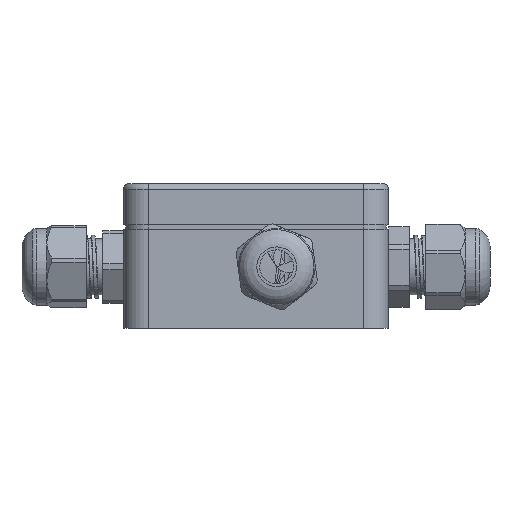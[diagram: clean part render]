
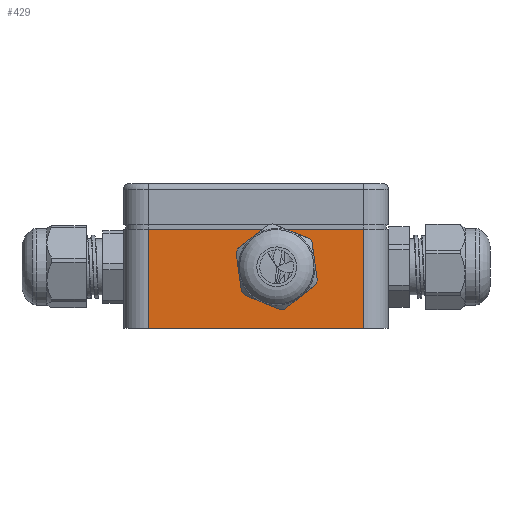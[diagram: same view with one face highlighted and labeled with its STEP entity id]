
A CAD part, left-side view. The second image highlights one B-rep face of the part: STEP entity #429.
In plain terms, the highlighted planar face has unit normal (-1, 0, 0) by its records, which use the part's own axes.
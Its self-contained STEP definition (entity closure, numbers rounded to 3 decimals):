
#429=ADVANCED_FACE('',(#26511),#26513,.T.);
#26511=FACE_BOUND('',#26512,.T.);
#26512=EDGE_LOOP('',(#93569,#93570,#93571,#93572,#93573,#93574,#93575,#93576,#93577,
#93578,#93579,#93580,#93581,#93582,#93583,#93584));
#26513=PLANE('',#26514);
#26514=AXIS2_PLACEMENT_3D('',#26515,#26516,#26517);
#26515=CARTESIAN_POINT('',(-58.874,0.353,-7.405));
#26516=DIRECTION('',(-1.,0.,0.));
#26517=DIRECTION('',(0.,-1.,0.));
#93569=ORIENTED_EDGE('',*,*,#133148,.T.);
#93570=ORIENTED_EDGE('',*,*,#133149,.T.);
#93571=ORIENTED_EDGE('',*,*,#132918,.T.);
#93572=ORIENTED_EDGE('',*,*,#133147,.F.);
#93573=ORIENTED_EDGE('',*,*,#133052,.T.);
#93574=ORIENTED_EDGE('',*,*,#133047,.T.);
#93575=ORIENTED_EDGE('',*,*,#132920,.T.);
#93576=ORIENTED_EDGE('',*,*,#133150,.T.);
#93577=ORIENTED_EDGE('',*,*,#133151,.T.);
#93578=ORIENTED_EDGE('',*,*,#133152,.T.);
#93579=ORIENTED_EDGE('',*,*,#133153,.T.);
#93580=ORIENTED_EDGE('',*,*,#133154,.T.);
#93581=ORIENTED_EDGE('',*,*,#133155,.T.);
#93582=ORIENTED_EDGE('',*,*,#133156,.T.);
#93583=ORIENTED_EDGE('',*,*,#133157,.T.);
#93584=ORIENTED_EDGE('',*,*,#133158,.T.);
#132918=EDGE_CURVE('',#141613,#141611,#141614,.T.);
#132920=EDGE_CURVE('',#141617,#141615,#141618,.T.);
#133047=EDGE_CURVE('',#141848,#141617,#141849,.T.);
#133052=EDGE_CURVE('',#141857,#141848,#141858,.T.);
#133147=EDGE_CURVE('',#141857,#141611,#142036,.T.);
#133148=EDGE_CURVE('',#142037,#142038,#142039,.F.);
#133149=EDGE_CURVE('',#142038,#141613,#142040,.F.);
#133150=EDGE_CURVE('',#141615,#142041,#142042,.F.);
#133151=EDGE_CURVE('',#142041,#142043,#142044,.F.);
#133152=EDGE_CURVE('',#142043,#142045,#142046,.F.);
#133153=EDGE_CURVE('',#142045,#142047,#142048,.F.);
#133154=EDGE_CURVE('',#142047,#142049,#142050,.F.);
#133155=EDGE_CURVE('',#142049,#142051,#142052,.F.);
#133156=EDGE_CURVE('',#142051,#142053,#142054,.F.);
#133157=EDGE_CURVE('',#142053,#142055,#142056,.F.);
#133158=EDGE_CURVE('',#142055,#142037,#142057,.F.);
#141611=VERTEX_POINT('',#155217);
#141613=VERTEX_POINT('',#155222);
#141614=LINE('',#155223,#155224);
#141615=VERTEX_POINT('',#155226);
#141617=VERTEX_POINT('',#155230);
#141618=LINE('',#155231,#155232);
#141848=VERTEX_POINT('',#155959);
#141849=LINE('',#155960,#155961);
#141857=VERTEX_POINT('',#155981);
#141858=LINE('',#155982,#155983);
#142036=LINE('',#156389,#156390);
#142037=VERTEX_POINT('',#156392);
#142038=VERTEX_POINT('',#156393);
#142039=LINE('',#156394,#156395);
#142040=LINE('',#156397,#156398);
#142041=VERTEX_POINT('',#156400);
#142042=LINE('',#156401,#156402);
#142043=VERTEX_POINT('',#156404);
#142044=LINE('',#156405,#156406);
#142045=VERTEX_POINT('',#156408);
#142046=LINE('',#156409,#156410);
#142047=VERTEX_POINT('',#156412);
#142048=LINE('',#156413,#156414);
#142049=VERTEX_POINT('',#156416);
#142050=LINE('',#156417,#156418);
#142051=VERTEX_POINT('',#156420);
#142052=LINE('',#156421,#156422);
#142053=VERTEX_POINT('',#156424);
#142054=LINE('',#156425,#156426);
#142055=VERTEX_POINT('',#156428);
#142056=LINE('',#156429,#156430);
#142057=LINE('',#156432,#156433);
#155217=CARTESIAN_POINT('',(-58.874,-5.647,16.595));
#155222=CARTESIAN_POINT('',(-58.874,-34.979,16.595));
#155223=CARTESIAN_POINT('',(-58.874,-34.979,16.595));
#155224=VECTOR('',#155225,1.);
#155225=DIRECTION('',(0.,1.,0.));
#155226=CARTESIAN_POINT('',(-58.874,-38.455,16.595));
#155230=CARTESIAN_POINT('',(-58.874,-57.647,16.595));
#155231=CARTESIAN_POINT('',(-58.874,-57.647,16.595));
#155232=VECTOR('',#155233,1.);
#155233=DIRECTION('',(0.,1.,0.));
#155959=CARTESIAN_POINT('',(-58.874,-57.647,-7.405));
#155960=CARTESIAN_POINT('',(-58.874,-57.647,-7.405));
#155961=VECTOR('',#155962,1.);
#155962=DIRECTION('',(0.,0.,1.));
#155981=CARTESIAN_POINT('',(-58.874,-5.647,-7.405));
#155982=CARTESIAN_POINT('',(-58.874,-5.647,-7.405));
#155983=VECTOR('',#155984,1.);
#155984=DIRECTION('',(0.,-1.,0.));
#156389=CARTESIAN_POINT('',(-58.874,-5.647,-7.405));
#156390=VECTOR('',#156391,1.);
#156391=DIRECTION('',(0.,0.,1.));
#156392=CARTESIAN_POINT('',(-58.874,-27.946,11.839));
#156393=CARTESIAN_POINT('',(-58.874,-28.66,13.043));
#156394=CARTESIAN_POINT('',(-58.874,-28.66,13.043));
#156395=VECTOR('',#156396,1.);
#156396=DIRECTION('',(0.,0.51,-0.86));
#156397=CARTESIAN_POINT('',(-58.874,-34.979,16.595));
#156398=VECTOR('',#156399,1.);
#156399=DIRECTION('',(0.,0.872,-0.49));
#156400=CARTESIAN_POINT('',(-58.874,-44.759,12.857));
#156401=CARTESIAN_POINT('',(-58.874,-44.759,12.857));
#156402=VECTOR('',#156403,1.);
#156403=DIRECTION('',(0.,0.86,0.51));
#156404=CARTESIAN_POINT('',(-58.874,-45.445,11.636));
#156405=CARTESIAN_POINT('',(-58.874,-45.445,11.636));
#156406=VECTOR('',#156407,1.);
#156407=DIRECTION('',(0.,0.49,0.872));
#156408=CARTESIAN_POINT('',(-58.874,-45.347,3.15));
#156409=CARTESIAN_POINT('',(-58.874,-45.347,3.15));
#156410=VECTOR('',#156411,1.);
#156411=DIRECTION('',(0.,-0.012,1.));
#156412=CARTESIAN_POINT('',(-58.874,-44.633,1.946));
#156413=CARTESIAN_POINT('',(-58.874,-44.633,1.946));
#156414=VECTOR('',#156415,1.);
#156415=DIRECTION('',(0.,-0.51,0.86));
#156416=CARTESIAN_POINT('',(-58.874,-37.234,-2.212));
#156417=CARTESIAN_POINT('',(-58.874,-37.234,-2.212));
#156418=VECTOR('',#156419,1.);
#156419=DIRECTION('',(0.,-0.872,0.49));
#156420=CARTESIAN_POINT('',(-58.874,-35.834,-2.196));
#156421=CARTESIAN_POINT('',(-58.874,-35.834,-2.196));
#156422=VECTOR('',#156423,1.);
#156423=DIRECTION('',(0.,-1.,-0.012));
#156424=CARTESIAN_POINT('',(-58.874,-28.534,2.132));
#156425=CARTESIAN_POINT('',(-58.874,-28.534,2.132));
#156426=VECTOR('',#156427,1.);
#156427=DIRECTION('',(0.,-0.86,-0.51));
#156428=CARTESIAN_POINT('',(-58.874,-27.848,3.353));
#156429=CARTESIAN_POINT('',(-58.874,-27.848,3.353));
#156430=VECTOR('',#156431,1.);
#156431=DIRECTION('',(0.,-0.49,-0.872));
#156432=CARTESIAN_POINT('',(-58.874,-27.946,11.839));
#156433=VECTOR('',#156434,1.);
#156434=DIRECTION('',(0.,0.012,-1.));
